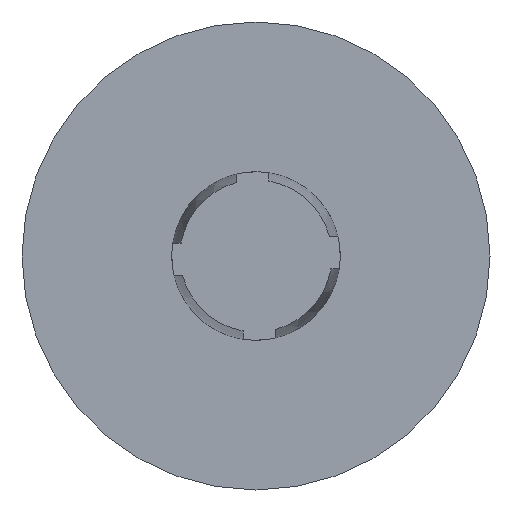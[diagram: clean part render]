
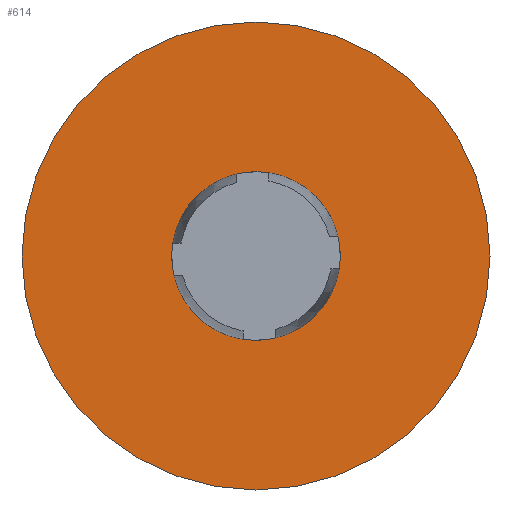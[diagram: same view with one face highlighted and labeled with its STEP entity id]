
A CAD part, front view. The second image highlights one B-rep face of the part: STEP entity #614.
In plain terms, the highlighted planar face has unit normal (0, -1, 0).
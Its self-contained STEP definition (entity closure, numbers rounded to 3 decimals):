
#563=CARTESIAN_POINT('',(3.6,0.0,0.));
#564=VERTEX_POINT('',#563);
#565=CARTESIAN_POINT('',(0.0,0.0,0.0));
#566=DIRECTION('',(0.0,1.0,0.0));
#567=DIRECTION('',(-1.0,0.0,0.0));
#568=AXIS2_PLACEMENT_3D('',#565,#566,#567);
#569=CIRCLE('',#568,3.6);
#570=EDGE_CURVE('',#564,#564,#569,.T.);
#580=CARTESIAN_POINT('',(10.0,0.0,0.0));
#581=VERTEX_POINT('',#580);
#582=CARTESIAN_POINT('',(0.0,0.0,0.0));
#583=DIRECTION('',(0.0,-1.0,0.0));
#584=DIRECTION('',(1.0,0.0,0.0));
#585=AXIS2_PLACEMENT_3D('',#582,#583,#584);
#586=CIRCLE('',#585,10.0);
#587=EDGE_CURVE('',#581,#581,#586,.T.);
#603=CARTESIAN_POINT('',(5.0,0.0,0.0));
#604=DIRECTION('',(0.0,-1.0,0.0));
#605=DIRECTION('',(0.0,0.0,-1.0));
#606=AXIS2_PLACEMENT_3D('',#603,#604,#605);
#607=PLANE('',#606);
#608=ORIENTED_EDGE('',*,*,#587,.T.);
#609=EDGE_LOOP('',(#608));
#610=FACE_OUTER_BOUND('',#609,.T.);
#611=ORIENTED_EDGE('',*,*,#570,.T.);
#612=EDGE_LOOP('',(#611));
#613=FACE_BOUND('',#612,.T.);
#614=ADVANCED_FACE('',(#610,#613),#607,.T.);
